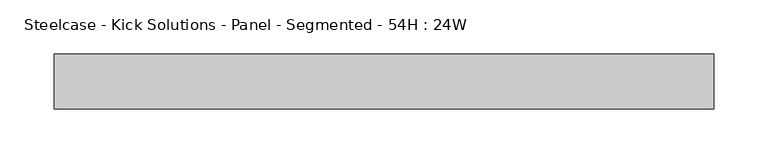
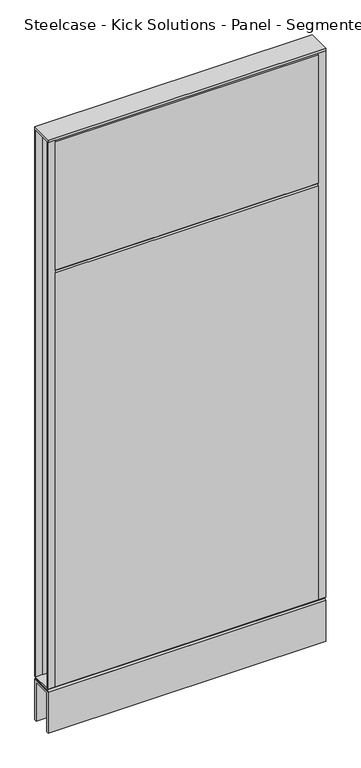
"""IFC4 building model written with IfcOpenShell, lengths in millimetres: furniture geometry, Steelcase - Kick Solutions - Panel - Segmented - 54H : 24W."""

from ifc_helpers import new_model, si_unit, frame, origin, place, context, project, spatial, polyline, outline, extrude, source, transform, mapped, element, save


def steelcase_kick_solutions_panel_segmented_54h_24w_0aa64bf7(model_context):
    return source(origin(), model_context, "Body", "SweptSolid", [
        extrude(outline(polyline([(1.5e-06, 101.600003), (-3.175, 101.600003), (-3.175, 1371.6), (1.5e-06, 1368.5188448), (1.5e-06, 101.600003)])), frame((15.8749996, 0.0, 0.0), z_axis=(1.0, 0.0, 0.0), x_axis=(0.0, 1.0, 0.0)), (0.0, 0.0, 1.0), 577.8500008),
        extrude(outline(polyline([(-50.8000015, 1069.8811552), (-50.8000015, 1368.5188448), (-47.625, 1371.6), (-47.625, 1066.8), (-50.8000015, 1069.8811552)])), frame((15.8749996, 0.0, 0.0), z_axis=(1.0, 0.0, 0.0), x_axis=(0.0, 1.0, 0.0)), (0.0, 0.0, 1.0), 577.8500008),
        extrude(outline(polyline([(-50.8000015, 101.600003), (-50.8000015, 1063.7188448), (-47.625, 1066.8), (-47.625, 101.600003), (-50.8000015, 101.600003)])), frame((15.8749996, 0.0, 0.0), z_axis=(1.0, 0.0, 0.0), x_axis=(0.0, 1.0, 0.0)), (0.0, 0.0, 1.0), 577.8500008),
        extrude(outline(polyline([(609.6, -3.1750015), (593.7250004, -3.1750015), (593.7250004, 0.0), (609.6, 0.0), (609.6, -3.1750015)])), frame((0.0, 0.0, 101.7169049), z_axis=(0.0, 0.0, 1.0), x_axis=(1.0, 0.0, 0.0)), (0.0, 0.0, 1.0), 1269.999997),
        extrude(outline(polyline([(15.8749996, -50.8000015), (0.0, -50.8000015), (0.0, -47.625), (15.8749996, -47.625), (15.8749996, -50.8000015)])), frame((0.0, 0.0, 101.7169049), z_axis=(0.0, 0.0, 1.0), x_axis=(1.0, 0.0, 0.0)), (0.0, 0.0, 1.0), 1269.999997),
        extrude(outline(polyline([(-50.7995075, 101.7169049), (-0.000494, 101.7169049), (-3.0583512, 98.5421458), (-47.7416503, 98.5421458), (-50.7995075, 101.7169049)])), frame((0.0, 0.0, 0.0), z_axis=(1.0, 0.0, 0.0), x_axis=(0.0, 1.0, 0.0)), (0.0, 0.0, 1.0), 609.6),
        extrude(outline(polyline([(609.6, 0.0), (609.6, -50.8000015), (0.0, -50.8000015), (0.0, 0.0), (609.6, 0.0)])), frame((0.0, 0.0, 1371.7169018), z_axis=(0.0, 0.0, 1.0), x_axis=(1.0, 0.0, 0.0)), (0.0, 0.0, 1.0), 6.35),
        extrude(outline(polyline([(15.8749996, -3.1750015), (0.0, -3.1750015), (0.0, 0.0), (15.8749996, 0.0), (15.8749996, -3.1750015)])), frame((0.0, 0.0, 101.7169049), z_axis=(0.0, 0.0, 1.0), x_axis=(1.0, 0.0, 0.0)), (0.0, 0.0, 1.0), 1269.999997),
        extrude(outline(polyline([(609.6, -50.8000015), (593.7250004, -50.8000015), (593.7250004, -47.625), (609.6, -47.625), (609.6, -50.8000015)])), frame((0.0, 0.0, 101.7169049), z_axis=(0.0, 0.0, 1.0), x_axis=(1.0, 0.0, 0.0)), (0.0, 0.0, 1.0), 1269.999997),
        extrude(outline(polyline([(-50.8000015, 95.3668927), (-47.6247484, 98.5421458), (-3.1752531, 98.5421458), (0.0, 95.3668927), (-50.8000015, 95.3668927)])), frame((0.0, 0.0, 0.0), z_axis=(1.0, 0.0, 0.0), x_axis=(0.0, 1.0, 0.0)), (0.0, 0.0, 1.0), 609.6),
        extrude(outline(polyline([(0.0, 0.0), (-5.08, 0.0), (-5.08, 90.2869018), (-45.7200015, 90.2869018), (-45.7200015, 0.0), (-50.8000015, 0.0), (-50.8000015, 95.3669018), (0.0, 95.3669018), (0.0, 0.0)])), frame((0.0, 0.0, 0.0), z_axis=(1.0, 0.0, 0.0), x_axis=(0.0, 1.0, 0.0)), (0.0, 0.0, 1.0), 609.6),
    ])


if __name__ == "__main__":
    model = new_model("IFC4")
    model_context = context("Model", 3, world=origin())
    ifc_project = project(units=[si_unit("LENGTHUNIT", "METRE", prefix="MILLI")], contexts=[model_context])
    site = spatial("IfcSite", under=ifc_project)
    building = spatial("IfcBuilding", under=site)
    placement = place(None, origin())
    steelcase_kick_solutions_panel_segmented_54h_24w_shape = steelcase_kick_solutions_panel_segmented_54h_24w_0aa64bf7(model_context)
    element("IfcFurniture", 1, ObjectType="Steelcase - Kick Solutions - Panel - Segmented - 54H : 24W", at=placement, inside=building, context=model_context, shape_type="MappedRepresentation", body=[
        mapped(steelcase_kick_solutions_panel_segmented_54h_24w_shape, transform((0.0, 0.0, 0.0), x_axis=(1.0, 0.0, 0.0), y_axis=(0.0, 1.0, 0.0), z_axis=(0.0, 0.0, 1.0))),
    ])
    save(model, "model.ifc")
